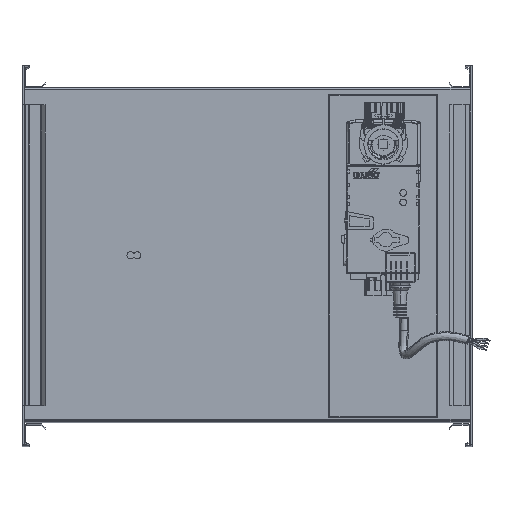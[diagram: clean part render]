
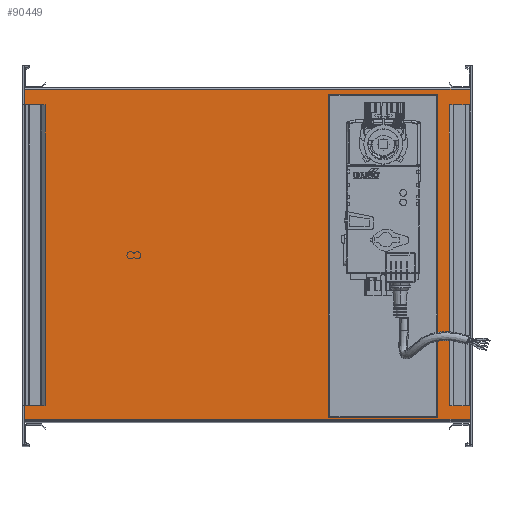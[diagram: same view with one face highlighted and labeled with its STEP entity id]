
A CAD part, top view. The second image highlights one B-rep face of the part: STEP entity #90449.
In plain terms, the highlighted planar face has unit normal (0, 0, 1).
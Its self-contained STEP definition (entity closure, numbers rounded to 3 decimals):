
#3907 = DIRECTION ( 'NONE',  ( 0., -1., 0. ) ) ;
#5759 = CARTESIAN_POINT ( 'NONE',  ( 28.801, -132.361, 1450. ) ) ;
#6525 = ORIENTED_EDGE ( 'NONE', *, *, #45679, .F. ) ;
#8047 = EDGE_CURVE ( 'NONE', #17555, #88354, #44304, .T. ) ;
#8326 = VECTOR ( 'NONE', #81625, 1000. ) ;
#8379 = VERTEX_POINT ( 'NONE', #56350 ) ;
#8599 = DIRECTION ( 'NONE',  ( -1., 0., 0. ) ) ;
#10154 = LINE ( 'NONE', #59637, #8326 ) ;
#13735 = CARTESIAN_POINT ( 'NONE',  ( 28.801, 157.639, 1450. ) ) ;
#13783 = CARTESIAN_POINT ( 'NONE',  ( -244.423, 162.152, 1450. ) ) ;
#14217 = VECTOR ( 'NONE', #3907, 1000. ) ;
#14974 = AXIS2_PLACEMENT_3D ( 'NONE', #64766, #27426, #55877 ) ;
#15213 = ORIENTED_EDGE ( 'NONE', *, *, #17907, .F. ) ;
#17555 = VERTEX_POINT ( 'NONE', #13783 ) ;
#17907 = EDGE_CURVE ( 'NONE', #59478, #8379, #20224, .T. ) ;
#20224 = LINE ( 'NONE', #5759, #14217 ) ;
#23876 = VECTOR ( 'NONE', #66013, 1000. ) ;
#25084 = VERTEX_POINT ( 'NONE', #48141 ) ;
#27426 = DIRECTION ( 'NONE',  ( 0., 0., 1. ) ) ;
#29609 = LINE ( 'NONE', #38003, #87503 ) ;
#34701 = CARTESIAN_POINT ( 'NONE',  ( 155.577, -133.848, 1450. ) ) ;
#36264 = FACE_OUTER_BOUND ( 'NONE', #89494, .T. ) ;
#37497 = VECTOR ( 'NONE', #65469, 1000. ) ;
#37734 = VERTEX_POINT ( 'NONE', #34701 ) ;
#38003 = CARTESIAN_POINT ( 'NONE',  ( 28.801, 157.639, 1450. ) ) ;
#38894 = LINE ( 'NONE', #51530, #23876 ) ;
#44304 = LINE ( 'NONE', #58311, #70478 ) ;
#44464 = CARTESIAN_POINT ( 'NONE',  ( 126.801, -132.361, 1450. ) ) ;
#45679 = EDGE_CURVE ( 'NONE', #8379, #46751, #80454, .T. ) ;
#46751 = VERTEX_POINT ( 'NONE', #44464 ) ;
#47927 = VECTOR ( 'NONE', #89536, 1000. ) ;
#48141 = CARTESIAN_POINT ( 'NONE',  ( 126.801, 157.639, 1450. ) ) ;
#50916 = ORIENTED_EDGE ( 'NONE', *, *, #8047, .T. ) ;
#51530 = CARTESIAN_POINT ( 'NONE',  ( -244.423, 162.152, 1450. ) ) ;
#51707 = LINE ( 'NONE', #65728, #63185 ) ;
#54483 = ORIENTED_EDGE ( 'NONE', *, *, #69367, .F. ) ;
#55877 = DIRECTION ( 'NONE',  ( 1., 0., 0. ) ) ;
#56350 = CARTESIAN_POINT ( 'NONE',  ( 28.801, -132.361, 1450. ) ) ;
#56792 = FACE_BOUND ( 'NONE', #85315, .T. ) ;
#58311 = CARTESIAN_POINT ( 'NONE',  ( -244.423, -133.848, 1450. ) ) ;
#59478 = VERTEX_POINT ( 'NONE', #13735 ) ;
#59637 = CARTESIAN_POINT ( 'NONE',  ( 155.577, -133.848, 1450. ) ) ;
#60214 = EDGE_CURVE ( 'NONE', #87893, #37734, #10154, .T. ) ;
#60984 = CARTESIAN_POINT ( 'NONE',  ( -244.423, -133.848, 1450. ) ) ;
#63185 = VECTOR ( 'NONE', #72311, 1000. ) ;
#64766 = CARTESIAN_POINT ( 'NONE',  ( -244.423, -133.848, 1450. ) ) ;
#65469 = DIRECTION ( 'NONE',  ( 1., 0., 0. ) ) ;
#65728 = CARTESIAN_POINT ( 'NONE',  ( 126.801, -132.361, 1450. ) ) ;
#66013 = DIRECTION ( 'NONE',  ( 1., 0., 0. ) ) ;
#69233 = CARTESIAN_POINT ( 'NONE',  ( -244.423, -133.848, 1450. ) ) ;
#69367 = EDGE_CURVE ( 'NONE', #17555, #87893, #38894, .T. ) ;
#70478 = VECTOR ( 'NONE', #73298, 1000. ) ;
#71123 = EDGE_CURVE ( 'NONE', #88354, #37734, #81613, .T. ) ;
#72311 = DIRECTION ( 'NONE',  ( 0., 1., 0. ) ) ;
#73298 = DIRECTION ( 'NONE',  ( 0., -1., 0. ) ) ;
#74608 = ORIENTED_EDGE ( 'NONE', *, *, #60214, .F. ) ;
#79533 = CARTESIAN_POINT ( 'NONE',  ( 28.801, -132.361, 1450. ) ) ;
#80322 = EDGE_CURVE ( 'NONE', #46751, #25084, #51707, .T. ) ;
#80454 = LINE ( 'NONE', #79533, #37497 ) ;
#81613 = LINE ( 'NONE', #60984, #47927 ) ;
#81625 = DIRECTION ( 'NONE',  ( 0., -1., 0. ) ) ;
#83285 = ORIENTED_EDGE ( 'NONE', *, *, #71123, .T. ) ;
#83542 = ORIENTED_EDGE ( 'NONE', *, *, #87383, .F. ) ;
#83842 = CARTESIAN_POINT ( 'NONE',  ( 155.577, 162.152, 1450. ) ) ;
#85315 = EDGE_LOOP ( 'NONE', ( #83542, #89470, #6525, #15213 ) ) ;
#85338 = PLANE ( 'NONE',  #14974 ) ;
#87383 = EDGE_CURVE ( 'NONE', #25084, #59478, #29609, .T. ) ;
#87503 = VECTOR ( 'NONE', #8599, 1000. ) ;
#87893 = VERTEX_POINT ( 'NONE', #83842 ) ;
#88354 = VERTEX_POINT ( 'NONE', #69233 ) ;
#89470 = ORIENTED_EDGE ( 'NONE', *, *, #80322, .F. ) ;
#89494 = EDGE_LOOP ( 'NONE', ( #74608, #54483, #50916, #83285 ) ) ;
#89536 = DIRECTION ( 'NONE',  ( 1., 0., 0. ) ) ;
#90449 = ADVANCED_FACE ( 'NONE', ( #56792, #36264 ), #85338, .T. ) ;
